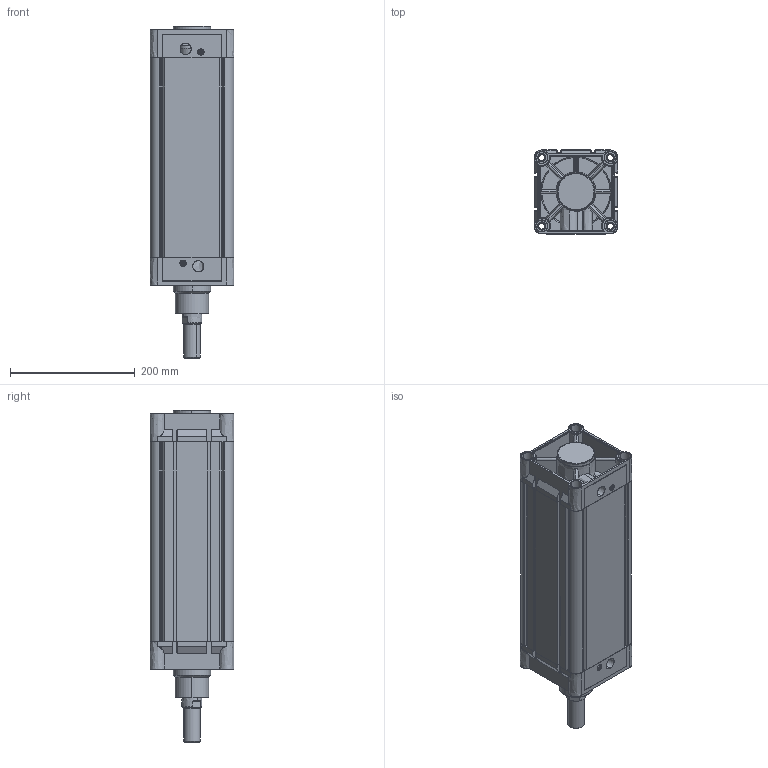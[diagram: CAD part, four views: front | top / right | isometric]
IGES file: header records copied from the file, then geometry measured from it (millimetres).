
Start section: SolidWorks IGES file using analytic representation for surfaces
Global section: file name: D:\ARICA 3D 禽Z軲LER\3D IGES\KDNC\KDNC125\KDNC125X250CYLINDER.IGS,1; native system: 5HSolidWorks 2013; preprocessor: SolidWorks 2013; author: user; date: 150304.114736; units: millimetre
Bounding box: 134 x 134.3 x 533 mm (x, y, z)
Surface area: 757207.3 mm2 (no closed solid volume)
Topology: 0 solids, 0 shells, 1075 faces, 16926 edges, 16920 vertices
Faces by surface type: revolution 580, bspline 495
